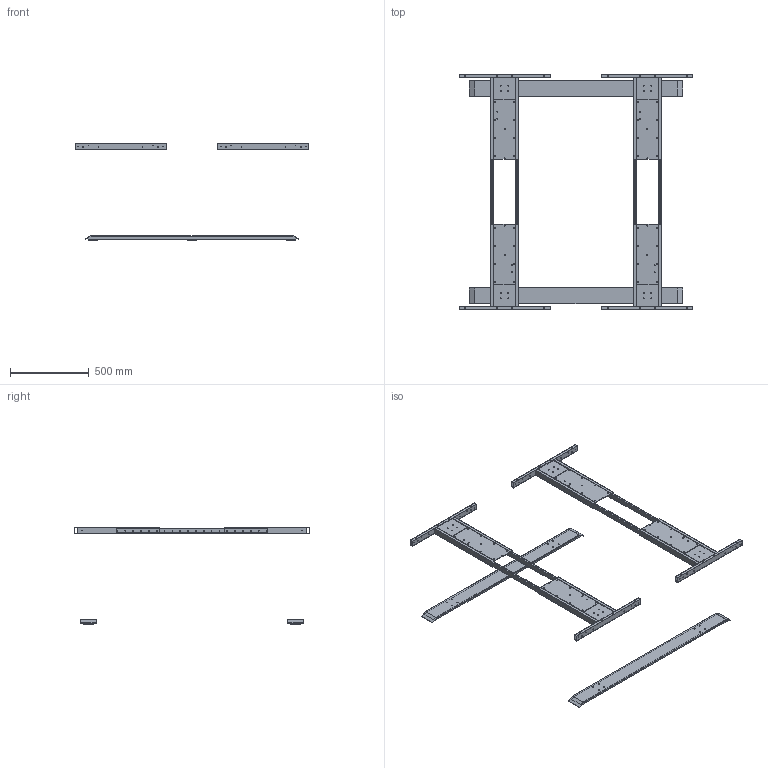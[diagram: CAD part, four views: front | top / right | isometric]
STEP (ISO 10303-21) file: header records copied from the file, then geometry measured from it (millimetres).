
FILE_DESCRIPTION( ( 'STEP AP214' ), ' ' );
FILE_NAME( 'C:/Sunil_Patil/Sunil Patil Data/2018/HMS/C_6/9243051/9243051.stp', '2018-04-03T04:26:21', ( '' ), ( '' ), ' ', 'PARTsolutions', ' ' );
FILE_SCHEMA( ( 'AUTOMOTIVE_DESIGN { 1 0 10303 214 1 1 1 1 }' ) );
Length unit declared in the file: millimetre
Products named in the file (4): 9243051; _9244967; _9186404; _9186404_3
Assembly tree (10 placements, depth 2):
  9243051
    _9244967  x2
    _9186404  x4
    _9186404_3  x4
Bounding box: 1490 x 1500 x 620.5 mm (x, y, z)
Volume: 8459026.9 mm3; surface area: 3392258.9 mm2
Topology: 10 solids, 10 shells, 544 faces, 1632 edges, 1128 vertices
Faces by surface type: cylinder 308, plane 236
Full cylindrical faces by diameter (mm): 4 x120, 5.5 x32, 6 x64, 6.5 x64, 6.7 x16, 10 x6, 60 x6
Entity records: 6190 total; most frequent: DIRECTION 834, CARTESIAN_POINT 781, ORIENTED_EDGE 672, EDGE_LOOP 406, EDGE_CURVE 336, AXIS2_PLACEMENT_3D 333, VERTEX_POINT 280, FACE_OUTER_BOUND 238
